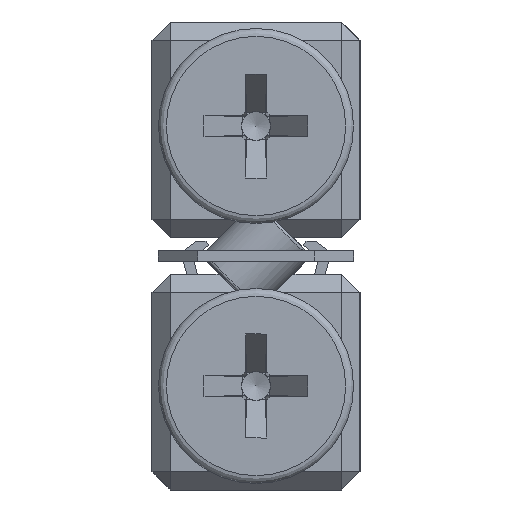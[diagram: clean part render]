
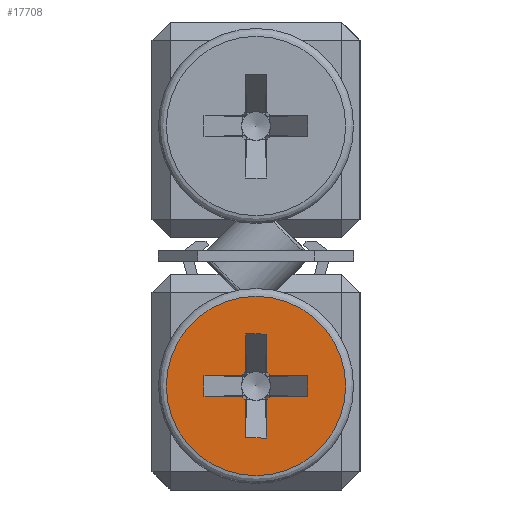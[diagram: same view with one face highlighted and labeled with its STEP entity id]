
A CAD part, left-side view. The second image highlights one B-rep face of the part: STEP entity #17708.
In plain terms, the highlighted planar face has unit normal (-1, 0, 0).
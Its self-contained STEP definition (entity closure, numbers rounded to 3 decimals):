
#148 = CARTESIAN_POINT ( 'NONE',  ( -89.5, -0.548, 3.6 ) ) ;
#588 = VERTEX_POINT ( 'NONE', #18576 ) ;
#697 = VERTEX_POINT ( 'NONE', #22642 ) ;
#740 = VERTEX_POINT ( 'NONE', #8164 ) ;
#1106 = VECTOR ( 'NONE', #19120, 1000. ) ;
#1123 = CIRCLE ( 'NONE', #24439, 3.45 ) ;
#1196 = DIRECTION ( 'NONE',  ( -1., 0., 0. ) ) ;
#1260 = ORIENTED_EDGE ( 'NONE', *, *, #10702, .F. ) ;
#1587 = VERTEX_POINT ( 'NONE', #148 ) ;
#1972 = CARTESIAN_POINT ( 'NONE',  ( -89.5, 0., 4. ) ) ;
#2042 = VERTEX_POINT ( 'NONE', #19437 ) ;
#2645 = VECTOR ( 'NONE', #21845, 1000. ) ;
#2666 = ORIENTED_EDGE ( 'NONE', *, *, #21236, .F. ) ;
#2686 = CARTESIAN_POINT ( 'NONE',  ( -89.5, -0.4, 4.548 ) ) ;
#2708 = VECTOR ( 'NONE', #19851, 1000. ) ;
#3076 = CARTESIAN_POINT ( 'NONE',  ( -89.5, -0.4, 6. ) ) ;
#3193 = VERTEX_POINT ( 'NONE', #4709 ) ;
#3202 = DIRECTION ( 'NONE',  ( 0., 0., -1. ) ) ;
#3206 = LINE ( 'NONE', #8406, #21061 ) ;
#3264 = CARTESIAN_POINT ( 'NONE',  ( -89.5, 0., 4. ) ) ;
#4286 = EDGE_CURVE ( 'NONE', #11989, #1587, #9268, .T. ) ;
#4357 = VERTEX_POINT ( 'NONE', #23116 ) ;
#4374 = VERTEX_POINT ( 'NONE', #22870 ) ;
#4492 = CARTESIAN_POINT ( 'NONE',  ( -89.5, 0., 4. ) ) ;
#4709 = CARTESIAN_POINT ( 'NONE',  ( -89.5, 0.4, 3.452 ) ) ;
#4721 = CARTESIAN_POINT ( 'NONE',  ( -89.5, 0.4, 4.548 ) ) ;
#4762 = DIRECTION ( 'NONE',  ( -1., 0., 0. ) ) ;
#4976 = CARTESIAN_POINT ( 'NONE',  ( -89.5, -0.4, 6. ) ) ;
#5067 = FACE_OUTER_BOUND ( 'NONE', #13678, .T. ) ;
#5179 = ORIENTED_EDGE ( 'NONE', *, *, #9474, .T. ) ;
#5277 = EDGE_CURVE ( 'NONE', #2042, #13191, #8305, .T. ) ;
#5300 = VERTEX_POINT ( 'NONE', #4721 ) ;
#5519 = CARTESIAN_POINT ( 'NONE',  ( -89.5, 0.548, 4.4 ) ) ;
#5765 = ORIENTED_EDGE ( 'NONE', *, *, #24483, .T. ) ;
#6033 = CARTESIAN_POINT ( 'NONE',  ( -89.5, -0.4, 6. ) ) ;
#6039 = LINE ( 'NONE', #23221, #24055 ) ;
#6500 = CARTESIAN_POINT ( 'NONE',  ( -89.5, 0.4, 2. ) ) ;
#6510 = VECTOR ( 'NONE', #15620, 1000. ) ;
#6722 = ORIENTED_EDGE ( 'NONE', *, *, #9902, .T. ) ;
#7272 = CARTESIAN_POINT ( 'NONE',  ( -89.5, 3.75, 4. ) ) ;
#7401 = DIRECTION ( 'NONE',  ( 0., 1., 0. ) ) ;
#8162 = CARTESIAN_POINT ( 'NONE',  ( -89.5, 0., 4. ) ) ;
#8164 = CARTESIAN_POINT ( 'NONE',  ( -89.5, -0.4, 6. ) ) ;
#8305 = LINE ( 'NONE', #21419, #6510 ) ;
#8406 = CARTESIAN_POINT ( 'NONE',  ( -89.5, 0.4, 2. ) ) ;
#8839 = DIRECTION ( 'NONE',  ( 0., 0., 1. ) ) ;
#8888 = CARTESIAN_POINT ( 'NONE',  ( -89.5, -2., 3.6 ) ) ;
#8953 = VERTEX_POINT ( 'NONE', #16318 ) ;
#8965 = CARTESIAN_POINT ( 'NONE',  ( -89.5, 0.4, 6. ) ) ;
#9046 = AXIS2_PLACEMENT_3D ( 'NONE', #3264, #4762, #8839 ) ;
#9056 = CIRCLE ( 'NONE', #17758, 0.678 ) ;
#9268 = LINE ( 'NONE', #24365, #20474 ) ;
#9474 = EDGE_CURVE ( 'NONE', #4374, #8953, #16233, .T. ) ;
#9902 = EDGE_CURVE ( 'NONE', #740, #17071, #16688, .T. ) ;
#10017 = DIRECTION ( 'NONE',  ( 0., 0., 1. ) ) ;
#10608 = VECTOR ( 'NONE', #3202, 1000. ) ;
#10702 = EDGE_CURVE ( 'NONE', #697, #588, #22070, .T. ) ;
#10711 = EDGE_CURVE ( 'NONE', #2042, #17071, #19718, .T. ) ;
#10759 = PLANE ( 'NONE',  #14282 ) ;
#10796 = ORIENTED_EDGE ( 'NONE', *, *, #22837, .F. ) ;
#11168 = EDGE_CURVE ( 'NONE', #697, #20373, #15449, .T. ) ;
#11379 = DIRECTION ( 'NONE',  ( -1., 0., 0. ) ) ;
#11970 = DIRECTION ( 'NONE',  ( 0., 0., 1. ) ) ;
#11989 = VERTEX_POINT ( 'NONE', #8888 ) ;
#12199 = CARTESIAN_POINT ( 'NONE',  ( -89.5, 0.4, 2. ) ) ;
#12232 = ORIENTED_EDGE ( 'NONE', *, *, #14446, .F. ) ;
#12812 = CARTESIAN_POINT ( 'NONE',  ( -89.5, -2., 3.6 ) ) ;
#12840 = CARTESIAN_POINT ( 'NONE',  ( -89.5, 0.548, 3.6 ) ) ;
#13191 = VERTEX_POINT ( 'NONE', #23363 ) ;
#13270 = ORIENTED_EDGE ( 'NONE', *, *, #23584, .F. ) ;
#13300 = CARTESIAN_POINT ( 'NONE',  ( -89.5, 0., 0.55 ) ) ;
#13591 = CARTESIAN_POINT ( 'NONE',  ( -89.5, 2., 4.4 ) ) ;
#13678 = EDGE_LOOP ( 'NONE', ( #18272 ) ) ;
#13715 = CARTESIAN_POINT ( 'NONE',  ( -89.5, 0., 4. ) ) ;
#14248 = VECTOR ( 'NONE', #22204, 1000. ) ;
#14275 = DIRECTION ( 'NONE',  ( 0., 0., 1. ) ) ;
#14282 = AXIS2_PLACEMENT_3D ( 'NONE', #7272, #14484, #24111 ) ;
#14342 = AXIS2_PLACEMENT_3D ( 'NONE', #1972, #11379, #16716 ) ;
#14446 = EDGE_CURVE ( 'NONE', #4357, #8953, #16281, .T. ) ;
#14484 = DIRECTION ( 'NONE',  ( 1., 0., 0. ) ) ;
#14777 = CIRCLE ( 'NONE', #14342, 0.678 ) ;
#15030 = LINE ( 'NONE', #12812, #14248 ) ;
#15060 = VERTEX_POINT ( 'NONE', #12840 ) ;
#15262 = EDGE_LOOP ( 'NONE', ( #13270, #5179, #12232, #19628, #21039, #21483, #1260, #18810, #2666, #5765, #18471, #6722, #23285, #23521, #10796, #18422 ) ) ;
#15449 = LINE ( 'NONE', #13591, #22412 ) ;
#15620 = DIRECTION ( 'NONE',  ( 0., -1., 0. ) ) ;
#16209 = DIRECTION ( 'NONE',  ( 0., 0., 1. ) ) ;
#16233 = LINE ( 'NONE', #4976, #1106 ) ;
#16281 = LINE ( 'NONE', #12199, #2645 ) ;
#16318 = CARTESIAN_POINT ( 'NONE',  ( -89.5, -0.4, 2. ) ) ;
#16348 = EDGE_CURVE ( 'NONE', #15060, #588, #15030, .T. ) ;
#16403 = LINE ( 'NONE', #6500, #23699 ) ;
#16688 = LINE ( 'NONE', #3076, #10608 ) ;
#16716 = DIRECTION ( 'NONE',  ( 0., 0., 1. ) ) ;
#17071 = VERTEX_POINT ( 'NONE', #2686 ) ;
#17184 = DIRECTION ( 'NONE',  ( 0., 1., 0. ) ) ;
#17521 = VECTOR ( 'NONE', #17184, 1000. ) ;
#17612 = EDGE_CURVE ( 'NONE', #15060, #3193, #23753, .T. ) ;
#17708 = ADVANCED_FACE ( 'NONE', ( #5067, #24230 ), #10759, .F. ) ;
#17758 = AXIS2_PLACEMENT_3D ( 'NONE', #4492, #19592, #14275 ) ;
#18272 = ORIENTED_EDGE ( 'NONE', *, *, #22966, .T. ) ;
#18422 = ORIENTED_EDGE ( 'NONE', *, *, #4286, .T. ) ;
#18471 = ORIENTED_EDGE ( 'NONE', *, *, #21759, .F. ) ;
#18576 = CARTESIAN_POINT ( 'NONE',  ( -89.5, 2., 3.6 ) ) ;
#18810 = ORIENTED_EDGE ( 'NONE', *, *, #11168, .T. ) ;
#19120 = DIRECTION ( 'NONE',  ( 0., 0., -1. ) ) ;
#19437 = CARTESIAN_POINT ( 'NONE',  ( -89.5, -0.548, 4.4 ) ) ;
#19592 = DIRECTION ( 'NONE',  ( -1., 0., 0. ) ) ;
#19628 = ORIENTED_EDGE ( 'NONE', *, *, #21527, .T. ) ;
#19718 = CIRCLE ( 'NONE', #9046, 0.678 ) ;
#19851 = DIRECTION ( 'NONE',  ( 0., 0., -1. ) ) ;
#20373 = VERTEX_POINT ( 'NONE', #5519 ) ;
#20474 = VECTOR ( 'NONE', #7401, 1000. ) ;
#20710 = VERTEX_POINT ( 'NONE', #13300 ) ;
#20817 = VERTEX_POINT ( 'NONE', #8965 ) ;
#21039 = ORIENTED_EDGE ( 'NONE', *, *, #17612, .F. ) ;
#21061 = VECTOR ( 'NONE', #16209, 1000. ) ;
#21130 = DIRECTION ( 'NONE',  ( 0., -1., 0. ) ) ;
#21236 = EDGE_CURVE ( 'NONE', #5300, #20373, #14777, .T. ) ;
#21419 = CARTESIAN_POINT ( 'NONE',  ( -89.5, 2., 4.4 ) ) ;
#21483 = ORIENTED_EDGE ( 'NONE', *, *, #16348, .T. ) ;
#21527 = EDGE_CURVE ( 'NONE', #4357, #3193, #3206, .T. ) ;
#21709 = CARTESIAN_POINT ( 'NONE',  ( -89.5, 2., 4.4 ) ) ;
#21759 = EDGE_CURVE ( 'NONE', #740, #20817, #23217, .T. ) ;
#21781 = AXIS2_PLACEMENT_3D ( 'NONE', #8162, #23494, #10017 ) ;
#21845 = DIRECTION ( 'NONE',  ( 0., -1., 0. ) ) ;
#21991 = DIRECTION ( 'NONE',  ( 0., 0., -1. ) ) ;
#22070 = LINE ( 'NONE', #21709, #2708 ) ;
#22204 = DIRECTION ( 'NONE',  ( 0., 1., 0. ) ) ;
#22412 = VECTOR ( 'NONE', #21130, 1000. ) ;
#22642 = CARTESIAN_POINT ( 'NONE',  ( -89.5, 2., 4.4 ) ) ;
#22837 = EDGE_CURVE ( 'NONE', #11989, #13191, #6039, .T. ) ;
#22870 = CARTESIAN_POINT ( 'NONE',  ( -89.5, -0.4, 3.452 ) ) ;
#22966 = EDGE_CURVE ( 'NONE', #20710, #20710, #1123, .T. ) ;
#23116 = CARTESIAN_POINT ( 'NONE',  ( -89.5, 0.4, 2. ) ) ;
#23217 = LINE ( 'NONE', #6033, #17521 ) ;
#23221 = CARTESIAN_POINT ( 'NONE',  ( -89.5, -2., 3.6 ) ) ;
#23285 = ORIENTED_EDGE ( 'NONE', *, *, #10711, .F. ) ;
#23363 = CARTESIAN_POINT ( 'NONE',  ( -89.5, -2., 4.4 ) ) ;
#23494 = DIRECTION ( 'NONE',  ( -1., 0., 0. ) ) ;
#23521 = ORIENTED_EDGE ( 'NONE', *, *, #5277, .T. ) ;
#23584 = EDGE_CURVE ( 'NONE', #4374, #1587, #9056, .T. ) ;
#23699 = VECTOR ( 'NONE', #23942, 1000. ) ;
#23753 = CIRCLE ( 'NONE', #21781, 0.678 ) ;
#23942 = DIRECTION ( 'NONE',  ( 0., 0., 1. ) ) ;
#24055 = VECTOR ( 'NONE', #11970, 1000. ) ;
#24111 = DIRECTION ( 'NONE',  ( 0., 0., -1. ) ) ;
#24230 = FACE_BOUND ( 'NONE', #15262, .T. ) ;
#24365 = CARTESIAN_POINT ( 'NONE',  ( -89.5, -2., 3.6 ) ) ;
#24439 = AXIS2_PLACEMENT_3D ( 'NONE', #13715, #1196, #21991 ) ;
#24483 = EDGE_CURVE ( 'NONE', #5300, #20817, #16403, .T. ) ;
